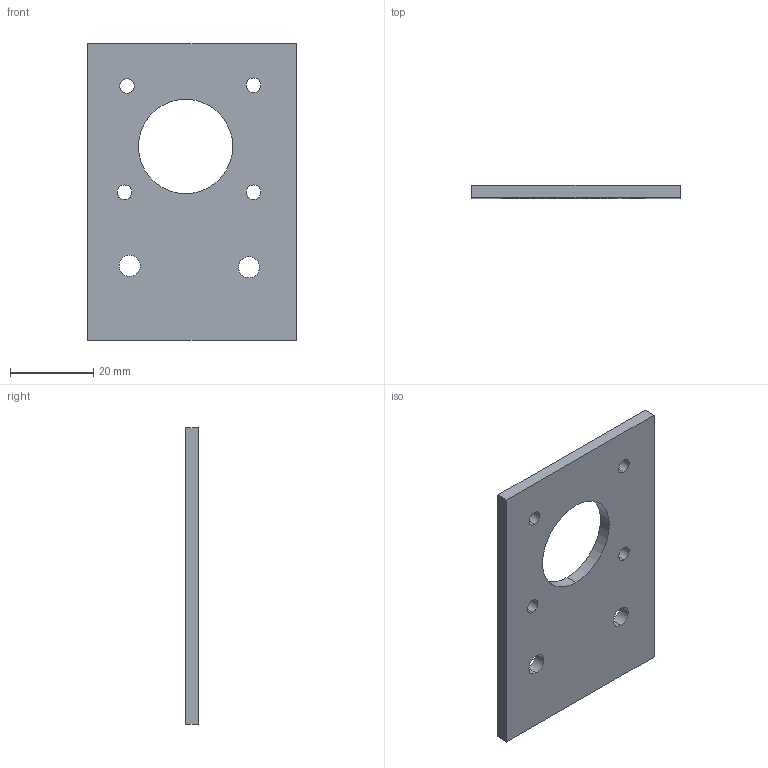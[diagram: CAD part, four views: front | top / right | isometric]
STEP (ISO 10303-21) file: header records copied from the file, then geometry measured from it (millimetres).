
FILE_DESCRIPTION(/* description */ ('STEP AP242 Edition 2','CAx-IF Rec.Pracs.---Representation and Presentation of Product Manufacturing Information (PMI)---4.0---2014-10-13','CAx-IF Rec.Pracs.---3D Tessellated Geometry---0.4---2014-09-14','2;1','CAx-IF Rec.Pracs.---User Defined Attributes---1.5---2016-08-15'),/* implementation_level */ '2;1');
FILE_NAME(/* name */ 'Assembly 1 - Part 8 (2)',/* time_stamp */ '2026-10-08T06:00:18Z',/* author */ (''),/* organization */ (''),/* preprocessor_version */ 'ST-DEVELOPER v20',/* originating_system */ 'ONSHAPE BY PTC INC, 1.221',/* authorisation */ ' ');
FILE_SCHEMA (('AP242_MANAGED_MODEL_BASED_3D_ENGINEERING_MIM_LF { 1 0 10303 442 3 1 4 }'));
Length unit declared in the file: metre
Products named in the file (1): Part 8
Bounding box: 50 x 3 x 71.14 mm (x, y, z)
Volume: 9224.1 mm3; surface area: 7317.8 mm2
Topology: 1 solids, 1 shells, 20 faces, 54 edges, 36 vertices
Faces by surface type: bspline 20
Entity records: 710 total; most frequent: CARTESIAN_POINT 241, ORIENTED_EDGE 108, DIRECTION 70, EDGE_CURVE 54, VERTEX_POINT 36, EDGE_LOOP 34, FACE_BOUND 34, AXIS2_PLACEMENT_3D 29
